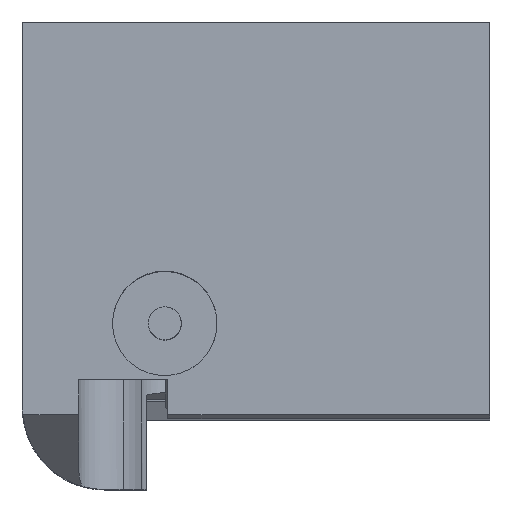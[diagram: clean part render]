
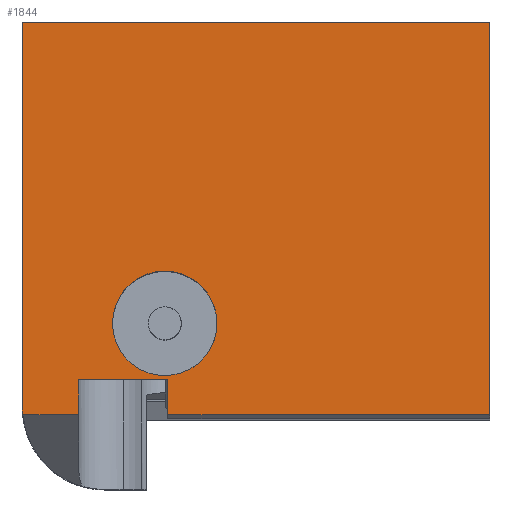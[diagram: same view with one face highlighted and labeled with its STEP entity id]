
A CAD part, top view. The second image highlights one B-rep face of the part: STEP entity #1844.
In plain terms, the highlighted planar face has unit normal (0, 0, 1).
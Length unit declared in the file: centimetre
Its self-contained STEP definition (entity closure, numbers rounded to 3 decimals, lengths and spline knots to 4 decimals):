
#28 = CARTESIAN_POINT ( 'NONE',  ( 0., 1000., 1000. ) ) ;
#37 = CARTESIAN_POINT ( 'NONE',  ( 1000., 159.7391, 1000. ) ) ;
#121 = ORIENTED_EDGE ( 'NONE', *, *, #187, .T. ) ;
#146 = VERTEX_POINT ( 'NONE', #628 ) ;
#176 = ORIENTED_EDGE ( 'NONE', *, *, #1817, .T. ) ;
#187 = EDGE_CURVE ( 'NONE', #668, #2173, #1433, .T. ) ;
#201 = ORIENTED_EDGE ( 'NONE', *, *, #509, .T. ) ;
#204 = ORIENTED_EDGE ( 'NONE', *, *, #1532, .T. ) ;
#219 = CARTESIAN_POINT ( 'NONE',  ( 304.6774, 354.9919, 1000. ) ) ;
#243 = VECTOR ( 'NONE', #1725, 100. ) ;
#245 = ORIENTED_EDGE ( 'NONE', *, *, #1182, .T. ) ;
#328 = DIRECTION ( 'NONE',  ( 1., 0., 0. ) ) ;
#350 = DIRECTION ( 'NONE',  ( 1., 0., 0. ) ) ;
#363 = LINE ( 'NONE', #568, #1204 ) ;
#374 = DIRECTION ( 'NONE',  ( 0., 0., 1. ) ) ;
#401 = CARTESIAN_POINT ( 'NONE',  ( 120.406, 159.7391, 1000. ) ) ;
#419 = LINE ( 'NONE', #1889, #746 ) ;
#508 = CARTESIAN_POINT ( 'NONE',  ( 1000., 159.7391, 1000. ) ) ;
#509 = EDGE_CURVE ( 'NONE', #1406, #815, #1430, .T. ) ;
#514 = DIRECTION ( 'NONE',  ( 0., -1., 0. ) ) ;
#515 = PLANE ( 'NONE',  #744 ) ;
#521 = CARTESIAN_POINT ( 'NONE',  ( 0., 1000., 1000. ) ) ;
#568 = CARTESIAN_POINT ( 'NONE',  ( 311.4899, 234.554, 1000. ) ) ;
#587 = AXIS2_PLACEMENT_3D ( 'NONE', #1634, #374, #350 ) ;
#591 = EDGE_CURVE ( 'NONE', #146, #804, #829, .T. ) ;
#628 = CARTESIAN_POINT ( 'NONE',  ( 311.4899, 234.554, 1000. ) ) ;
#636 = ORIENTED_EDGE ( 'NONE', *, *, #1290, .F. ) ;
#661 = VECTOR ( 'NONE', #2174, 100. ) ;
#668 = VERTEX_POINT ( 'NONE', #1609 ) ;
#692 = VERTEX_POINT ( 'NONE', #2011 ) ;
#733 = DIRECTION ( 'NONE',  ( 1., 0., 0. ) ) ;
#744 = AXIS2_PLACEMENT_3D ( 'NONE', #920, #1249, #1295 ) ;
#746 = VECTOR ( 'NONE', #2329, 100. ) ;
#748 = CARTESIAN_POINT ( 'NONE',  ( 304.6774, 354.9919, 1000. ) ) ;
#804 = VERTEX_POINT ( 'NONE', #901 ) ;
#815 = VERTEX_POINT ( 'NONE', #1265 ) ;
#829 = LINE ( 'NONE', #1417, #2013 ) ;
#841 = EDGE_CURVE ( 'NONE', #692, #1604, #2129, .T. ) ;
#870 = CARTESIAN_POINT ( 'NONE',  ( 0.6592, 159.7391, 1000. ) ) ;
#901 = CARTESIAN_POINT ( 'NONE',  ( 120.406, 234.554, 1000. ) ) ;
#920 = CARTESIAN_POINT ( 'NONE',  ( 0., 0., 1000. ) ) ;
#981 = EDGE_CURVE ( 'NONE', #804, #2063, #1932, .T. ) ;
#1013 = CIRCLE ( 'NONE', #1320, 111.8259 ) ;
#1073 = ORIENTED_EDGE ( 'NONE', *, *, #841, .F. ) ;
#1091 = ORIENTED_EDGE ( 'NONE', *, *, #1152, .T. ) ;
#1093 = CARTESIAN_POINT ( 'NONE',  ( 0., 1000., 1000. ) ) ;
#1152 = EDGE_CURVE ( 'NONE', #815, #1776, #2244, .T. ) ;
#1182 = EDGE_CURVE ( 'NONE', #146, #668, #363, .T. ) ;
#1204 = VECTOR ( 'NONE', #1311, 100. ) ;
#1213 = EDGE_LOOP ( 'NONE', ( #1073, #636 ) ) ;
#1249 = DIRECTION ( 'NONE',  ( 0., 0., 1. ) ) ;
#1265 = CARTESIAN_POINT ( 'NONE',  ( 0., 174.9105, 1000. ) ) ;
#1290 = EDGE_CURVE ( 'NONE', #1604, #692, #1013, .T. ) ;
#1295 = DIRECTION ( 'NONE',  ( 1., 0., 0. ) ) ;
#1298 = CARTESIAN_POINT ( 'NONE',  ( 192.8516, 354.9919, 1000. ) ) ;
#1311 = DIRECTION ( 'NONE',  ( 0., -1., 0. ) ) ;
#1318 = VECTOR ( 'NONE', #514, 100. ) ;
#1320 = AXIS2_PLACEMENT_3D ( 'NONE', #219, #2012, #1490 ) ;
#1360 = ORIENTED_EDGE ( 'NONE', *, *, #981, .F. ) ;
#1388 = CARTESIAN_POINT ( 'NONE',  ( 120.406, 234.554, 1000. ) ) ;
#1406 = VERTEX_POINT ( 'NONE', #28 ) ;
#1417 = CARTESIAN_POINT ( 'NONE',  ( 0., 234.554, 1000. ) ) ;
#1430 = LINE ( 'NONE', #521, #661 ) ;
#1433 = LINE ( 'NONE', #508, #1857 ) ;
#1450 = FACE_BOUND ( 'NONE', #1213, .T. ) ;
#1470 = AXIS2_PLACEMENT_3D ( 'NONE', #748, #1852, #733 ) ;
#1485 = LINE ( 'NONE', #1688, #243 ) ;
#1490 = DIRECTION ( 'NONE',  ( 1., 0., 0. ) ) ;
#1532 = EDGE_CURVE ( 'NONE', #1893, #1406, #2022, .T. ) ;
#1604 = VERTEX_POINT ( 'NONE', #1298 ) ;
#1609 = CARTESIAN_POINT ( 'NONE',  ( 311.4899, 159.7391, 1000. ) ) ;
#1629 = CARTESIAN_POINT ( 'NONE',  ( 1000., 1000., 1000. ) ) ;
#1634 = CARTESIAN_POINT ( 'NONE',  ( 174.9105, 174.9105, 1000. ) ) ;
#1688 = CARTESIAN_POINT ( 'NONE',  ( 1000., 159.7391, 1000. ) ) ;
#1725 = DIRECTION ( 'NONE',  ( 1., 0., 0. ) ) ;
#1776 = VERTEX_POINT ( 'NONE', #870 ) ;
#1817 = EDGE_CURVE ( 'NONE', #2173, #1893, #419, .T. ) ;
#1844 = ADVANCED_FACE ( 'NONE', ( #1450, #2190 ), #515, .T. ) ;
#1852 = DIRECTION ( 'NONE',  ( 0., 0., 1. ) ) ;
#1857 = VECTOR ( 'NONE', #328, 100. ) ;
#1858 = VECTOR ( 'NONE', #1999, 100. ) ;
#1889 = CARTESIAN_POINT ( 'NONE',  ( 1000., 1000., 1000. ) ) ;
#1893 = VERTEX_POINT ( 'NONE', #1629 ) ;
#1932 = LINE ( 'NONE', #1388, #1318 ) ;
#1980 = EDGE_LOOP ( 'NONE', ( #1360, #2217, #245, #121, #176, #204, #201, #1091, #2361 ) ) ;
#1999 = DIRECTION ( 'NONE',  ( -1., 0., 0. ) ) ;
#2011 = CARTESIAN_POINT ( 'NONE',  ( 416.5033, 354.9919, 1000. ) ) ;
#2012 = DIRECTION ( 'NONE',  ( 0., 0., 1. ) ) ;
#2013 = VECTOR ( 'NONE', #2323, 100. ) ;
#2022 = LINE ( 'NONE', #1093, #1858 ) ;
#2063 = VERTEX_POINT ( 'NONE', #401 ) ;
#2129 = CIRCLE ( 'NONE', #1470, 111.8259 ) ;
#2158 = EDGE_CURVE ( 'NONE', #1776, #2063, #1485, .T. ) ;
#2173 = VERTEX_POINT ( 'NONE', #37 ) ;
#2174 = DIRECTION ( 'NONE',  ( 0., -1., 0. ) ) ;
#2190 = FACE_OUTER_BOUND ( 'NONE', #1980, .T. ) ;
#2217 = ORIENTED_EDGE ( 'NONE', *, *, #591, .F. ) ;
#2244 = CIRCLE ( 'NONE', #587, 174.9105 ) ;
#2323 = DIRECTION ( 'NONE',  ( -1., 0., 0. ) ) ;
#2329 = DIRECTION ( 'NONE',  ( 0., 1., 0. ) ) ;
#2361 = ORIENTED_EDGE ( 'NONE', *, *, #2158, .T. ) ;
